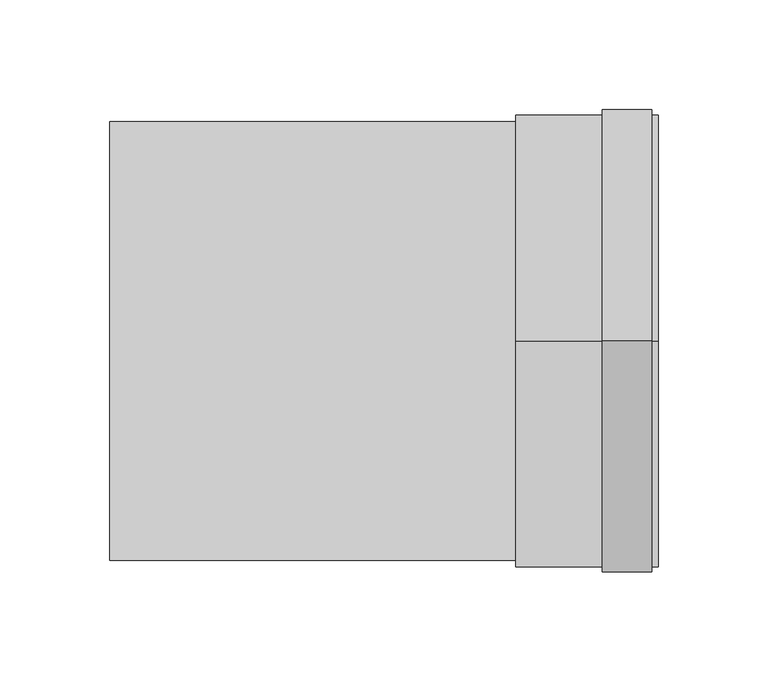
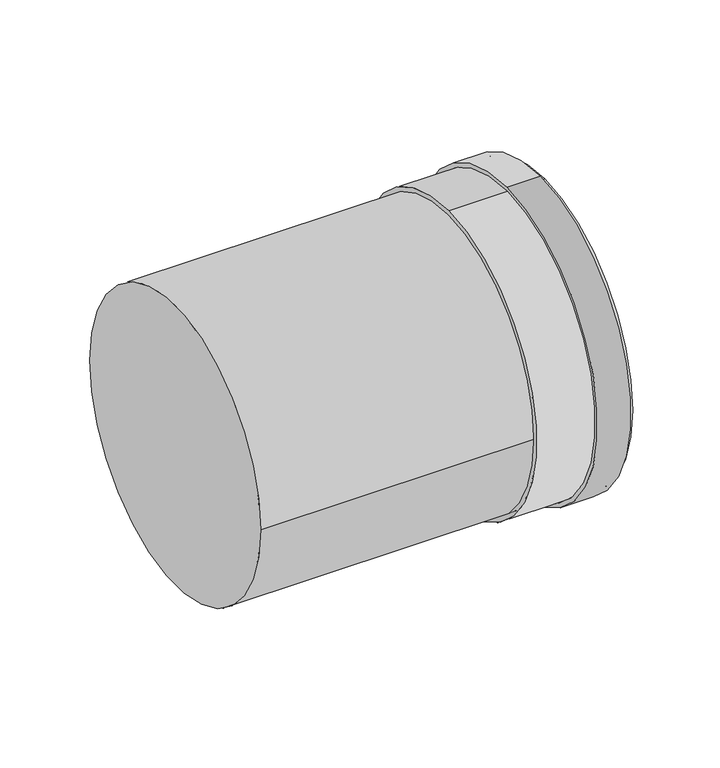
"""IFC4 building model written with IfcOpenShell, lengths in millimetres: duct fitting geometry, RSFen_DUF_UN_Twinline Extension_M&G : ø130-150-200."""

import ifcopenshell
import ifcopenshell.guid

model = None  # the IFC model being written
_history = None  # IfcOwnerHistory: only IFC2X3 demands one
_inside = {}  # id of a spatial element -> (the spatial element, [elements in it])
_under = {}  # id of a project, library or spatial element -> (it, [spatial elements below it])
_declared = {}  # id of a project -> (the project, [libraries it declares])
_typed = {}  # id of a type object -> (the type object, [elements of that type])
_made_of = {}  # id of a material, layer set ... -> (it, [elements and type objects made of it])


def new_model(schema):
    """Start an empty IFC model of exactly this schema.

    Asked for "IFC4X3", IfcOpenShell would pick the latest addendum, in which some entities
    have other attributes; the version numbers below select the first issue.
    IFC2X3 requires an IfcOwnerHistory on every rooted entity: one is made here for all.
    """
    global model, _history
    if schema == "IFC4X3":
        model = ifcopenshell.file(schema_version=(4, 3, 0, 0))
    else:
        model = ifcopenshell.file(schema=schema)
    _inside.clear()
    _under.clear()
    _declared.clear()
    _typed.clear()
    _made_of.clear()
    _history = None
    if model.schema == "IFC2X3":
        org = make("IfcOrganization", Name="unknown")
        user = make(
            "IfcPersonAndOrganization",
            ThePerson=make("IfcPerson", FamilyName="unknown"),
            TheOrganization=org,
        )
        app = make(
            "IfcApplication",
            ApplicationDeveloper=org,
            Version="unknown",
            ApplicationFullName="unknown",
            ApplicationIdentifier="unknown",
        )
        _history = make(
            "IfcOwnerHistory",
            OwningUser=user,
            OwningApplication=app,
            ChangeAction="ADDED",
            CreationDate=0,
        )
    return model


def make(cls, **values):
    """One entity of the class cls with the attributes given. An attribute that is None is left unset."""
    return model.create_entity(
        cls, **{name: value for name, value in values.items() if value is not None}
    )


def rooted(cls, **values):
    """An entity with a GlobalId (a new one), such as an element, a storey or a relation."""
    return make(cls, GlobalId=ifcopenshell.guid.new(), OwnerHistory=_history, **values)


def si_unit(unit_type, name, prefix=None):
    """IfcSIUnit, for example si_unit("LENGTHUNIT", "METRE", prefix="MILLI")."""
    return make("IfcSIUnit", UnitType=unit_type, Prefix=prefix, Name=name)


def assignment(units):
    """IfcUnitAssignment: the units of a project."""
    return None if units is None else make("IfcUnitAssignment", Units=units)


def point(xyz):
    """IfcCartesianPoint."""
    return None if xyz is None else make("IfcCartesianPoint", Coordinates=xyz)


def direction(xyz):
    """IfcDirection."""
    return None if xyz is None else make("IfcDirection", DirectionRatios=xyz)


def frame(location, z_axis=None, x_axis=None):
    """IfcAxis2Placement3D, a coordinate frame: its origin and axes. An axis left out is left unset."""
    return make(
        "IfcAxis2Placement3D",
        Location=point(location),
        Axis=direction(z_axis),
        RefDirection=direction(x_axis),
    )


def frame_2d(location, x_axis=None):
    """IfcAxis2Placement2D, a coordinate frame in the plane: its origin and x axis."""
    return make(
        "IfcAxis2Placement2D", Location=point(location), RefDirection=direction(x_axis)
    )


def origin():
    """The frame at (0, 0, 0) with its axes left unset."""
    return frame((0.0, 0.0, 0.0))


def origin_2d():
    """The frame at (0, 0) in the plane with its x axis left unset."""
    return frame_2d((0.0, 0.0))


def place(relative_to, where):
    """IfcLocalPlacement: puts the frame where relative to a parent placement (None: the world)."""
    return make(
        "IfcLocalPlacement", PlacementRelTo=relative_to, RelativePlacement=where
    )


def context(
    kind, dimensions, precision=None, world=None, true_north=None, identifier=None
):
    """IfcGeometricRepresentationContext, for example the 3D "Model" context."""
    return make(
        "IfcGeometricRepresentationContext",
        ContextIdentifier=identifier,
        ContextType=kind,
        CoordinateSpaceDimension=dimensions,
        Precision=precision,
        WorldCoordinateSystem=world,
        TrueNorth=true_north,
    )


def project(units=None, contexts=None):
    """IfcProject with its units and contexts."""
    return rooted(
        "IfcProject",
        Name="project",
        RepresentationContexts=contexts,
        UnitsInContext=assignment(units),
    )


def spatial(cls, under=None, at=None, **own):
    """A site, building, storey or space (cls), placed at a placement, below another one or the project."""
    s = rooted(cls, ObjectPlacement=at, **own)
    if under is not None:
        _under.setdefault(under.id(), (under, []))[1].append(s)
    return s


def polyline(points):
    """IfcPolyline through the points."""
    return make("IfcPolyline", Points=[point(p) for p in points])


def circle_curve(where, radius):
    """IfcCircle in the frame where."""
    return make("IfcCircle", Position=where, Radius=radius)


def trimmed(basis, trim1, trim2, sense, master):
    """IfcTrimmedCurve: the piece of a basis curve between two trims."""
    return make(
        "IfcTrimmedCurve",
        BasisCurve=basis,
        Trim1=trim1,
        Trim2=trim2,
        SenseAgreement=sense,
        MasterRepresentation=master,
    )


def segment(curve, same_sense, transition):
    """IfcCompositeCurveSegment."""
    return make(
        "IfcCompositeCurveSegment",
        Transition=transition,
        SameSense=same_sense,
        ParentCurve=curve,
    )


def composite_curve(segments, self_intersect=None):
    """IfcCompositeCurve: segments joined end to end."""
    return make("IfcCompositeCurve", Segments=segments, SelfIntersect=self_intersect)


def outline(outer, holes=None, kind="AREA"):
    """IfcArbitraryClosedProfileDef: a profile drawn as a closed curve; with holes, ...WithVoids."""
    if holes is None:
        return make("IfcArbitraryClosedProfileDef", ProfileType=kind, OuterCurve=outer)
    return make(
        "IfcArbitraryProfileDefWithVoids",
        ProfileType=kind,
        OuterCurve=outer,
        InnerCurves=holes,
    )


def extrude(swept, where, along, depth):
    """IfcExtrudedAreaSolid: the profile swept, set in the frame where, extruded along a direction by depth."""
    return make(
        "IfcExtrudedAreaSolid",
        SweptArea=swept,
        Position=where,
        ExtrudedDirection=direction(along),
        Depth=depth,
    )


def shape(context_of_items, identifier, shape_type, items):
    """IfcShapeRepresentation: the items that make up one representation, for example the "Body"."""
    return make(
        "IfcShapeRepresentation",
        ContextOfItems=context_of_items,
        RepresentationIdentifier=identifier,
        RepresentationType=shape_type,
        Items=items,
    )


def source(mapping_origin, context_of_items, identifier, shape_type, items):
    """IfcRepresentationMap: a shape defined once, which mapped items show again and again."""
    return make(
        "IfcRepresentationMap",
        MappingOrigin=mapping_origin,
        MappedRepresentation=shape(context_of_items, identifier, shape_type, items),
    )


def transform(
    local_origin,
    x_axis=None,
    y_axis=None,
    z_axis=None,
    scale=None,
    scale2=None,
    scale3=None,
    uniform=True,
):
    """IfcCartesianTransformationOperator3D, or its non-uniform kind. x_axis, y_axis, z_axis: its Axis1, 2, 3."""
    if uniform:
        return make(
            "IfcCartesianTransformationOperator3D",
            Axis1=direction(x_axis),
            Axis2=direction(y_axis),
            LocalOrigin=point(local_origin),
            Scale=scale,
            Axis3=direction(z_axis),
        )
    return make(
        "IfcCartesianTransformationOperator3DnonUniform",
        Axis1=direction(x_axis),
        Axis2=direction(y_axis),
        LocalOrigin=point(local_origin),
        Scale=scale,
        Axis3=direction(z_axis),
        Scale2=scale2,
        Scale3=scale3,
    )


def mapped(mapping_source, mapping_target):
    """IfcMappedItem: shows the shape of a source again, moved by a transform."""
    return make(
        "IfcMappedItem", MappingSource=mapping_source, MappingTarget=mapping_target
    )


def made_of(thing, what):
    """Note that an element or type object is made of a material, layer set ...; save() writes the relation."""
    if what is not None:
        _made_of.setdefault(what.id(), (what, []))[1].append(thing)
    return thing


def element(
    cls,
    number,
    at=None,
    inside=None,
    cuts=None,
    type_object=None,
    material=None,
    context=None,
    identifier="Body",
    shape_type=None,
    held_by="IfcProductDefinitionShape",
    body=None,
    shapes=None,
    **own,
):
    """One element of the class cls, such as IfcWall. Its Tag is "e" and its number.

    at: its placement. inside: the storey or other place that contains it. cuts: it is an
    opening in that element (IfcRelVoidsElement). A single representation is given by context,
    identifier, shape_type and body (its items); several are given by shapes. held_by: the class
    of the entity that holds the representations. save() writes the other relations.
    """
    e = rooted(cls, Tag="e%d" % number, ObjectPlacement=at, **own)
    if body is not None:
        shapes = [shape(context, identifier, shape_type, body)]
    if shapes is not None:
        e.Representation = make(held_by, Representations=shapes)
    if inside is not None:
        _inside.setdefault(inside.id(), (inside, []))[1].append(e)
    if cuts is not None:
        rooted(
            "IfcRelVoidsElement", RelatingBuildingElement=cuts, RelatedOpeningElement=e
        )
    if type_object is not None:
        _typed.setdefault(type_object.id(), (type_object, []))[1].append(e)
    return made_of(e, material)


def aggregate(whole, parts):
    """IfcRelAggregates: a whole, such as a stair, and the parts it consists of."""
    return rooted("IfcRelAggregates", RelatingObject=whole, RelatedObjects=parts)


def save(model, path):
    """Write the relations noted so far, then the file.

    IfcRelAggregates (storeys below a building ...), IfcRelContainedInSpatialStructure (elements
    in a storey), IfcRelDefinesByType, IfcRelAssociatesMaterial and IfcRelDeclares: one each for
    every whole, place, type object, material and project.
    """
    for whole, parts in _under.values():
        aggregate(whole, parts)
    for where, things in _inside.values():
        rooted(
            "IfcRelContainedInSpatialStructure",
            RelatedElements=things,
            RelatingStructure=where,
        )
    for kind, things in _typed.values():
        rooted("IfcRelDefinesByType", RelatedObjects=things, RelatingType=kind)
    for what, things in _made_of.values():
        rooted("IfcRelAssociatesMaterial", RelatedObjects=things, RelatingMaterial=what)
    for by, libraries in _declared.values():
        rooted("IfcRelDeclares", RelatingContext=by, RelatedDefinitions=libraries)
    model.write(path)


def plane_surface(at):
    """IfcPlane: the flat surface through the origin of the frame at, square to its z axis."""
    return make("IfcPlane", Position=at)


def cylinder_surface(at, radius):
    """IfcCylindricalSurface: all points at the distance radius from the z axis of the frame at."""
    return make("IfcCylindricalSurface", Position=at, Radius=radius)


def revolved_surface(curve, axis_point, axis_direction):
    """IfcSurfaceOfRevolution: the curve turned about the line through axis_point along axis_direction."""
    return make(
        "IfcSurfaceOfRevolution",
        SweptCurve=make("IfcArbitraryOpenProfileDef", ProfileType="CURVE", Curve=curve),
        AxisPosition=make("IfcAxis1Placement", Location=point(axis_point), Axis=direction(axis_direction)),
    )


def advanced_brep(points, edges, surfaces, faces):
    """IfcAdvancedBrep: a solid bounded by faces that lie on surfaces and meet in shared edges.

    An edge is (start, end): straight between two places in points (the first is 0);
    or (start, end, curve); or (start, end, curve, False) where it runs against its curve.
    A face is (place in surfaces, loops), or (place, loops, False) where it looks against
    its surface's normal. A loop lists edges by number (the first is 1), with a minus sign
    where the edge is run from its end to its start. The first loop is the outer one.
    """
    corners = [point(p) for p in points]
    vertices = [make("IfcVertexPoint", VertexGeometry=c) for c in corners]
    made = []
    for start, end, *more in edges:
        made.append(
            make(
                "IfcEdgeCurve",
                EdgeStart=vertices[start],
                EdgeEnd=vertices[end],
                EdgeGeometry=more[0] if more else make("IfcPolyline", Points=[corners[start], corners[end]]),
                SameSense=more[1] if len(more) > 1 else True,
            )
        )
    hull = []
    for where, loops, *sense in faces:
        bounds = []
        for j, loop in enumerate(loops):
            ring = [make("IfcOrientedEdge", EdgeElement=made[abs(k) - 1], Orientation=k > 0) for k in loop]
            bounds.append(
                make(
                    "IfcFaceOuterBound" if j == 0 else "IfcFaceBound",
                    Bound=make("IfcEdgeLoop", EdgeList=ring),
                    Orientation=True,
                )
            )
        hull.append(make("IfcAdvancedFace", Bounds=bounds, FaceSurface=surfaces[where], SameSense=sense[0] if sense else True))
    return make("IfcAdvancedBrep", Outer=make("IfcClosedShell", CfsFaces=hull))


def duct_fitting_7f7e895c(model_context):
    return source(origin(), model_context, "Body", "SolidModel", [
        extrude(outline(composite_curve([segment(trimmed(circle_curve(origin_2d(), 106.0), [point((0.0, 106.0))], [point((0.0, -106.0))], False, "CARTESIAN"), True, "CONTINUOUS"), segment(trimmed(circle_curve(origin_2d(), 106.0), [point((0.0, -106.0))], [point((0.0, 106.0))], False, "CARTESIAN"), True, "CONTINUOUS")], self_intersect=False), holes=[composite_curve([segment(trimmed(circle_curve(origin_2d(), 103.0), [point((0.0, -103.0))], [point((0.0, 103.0))], True, "CARTESIAN"), True, "CONTINUOUS"), segment(trimmed(circle_curve(origin_2d(), 103.0), [point((0.0, 103.0))], [point((0.0, -103.0))], True, "CARTESIAN"), True, "CONTINUOUS")], self_intersect=False)]), frame((224.5, 0.0, 0.0), z_axis=(1.0, 0.0, 0.0), x_axis=(0.0, 1.0, 0.0)), (0.0, 0.0, 1.0), 22.5),
        advanced_brep(
        [(250.0, 0.0, -103.0), (250.0, 0.0, 103.0), (250.0, 0.0, 99.0), (250.0, 0.0, -99.0), (185.0, 0.0, -103.0), (185.0, 0.0, 103.0), (190.0, 0.0, -99.0), (190.0, 0.0, 99.0)],
        [
            (0, 1, circle_curve(frame((250.0, 0.0, 0.0), z_axis=(1.0, 0.0, 0.0), x_axis=(0.0, 0.0, 1.0)), 103.0)),
            (1, 0, circle_curve(frame((250.0, 0.0, 0.0), z_axis=(1.0, 0.0, 0.0), x_axis=(0.0, 0.0, 1.0)), 103.0)),
            (2, 3, circle_curve(frame((250.0, 0.0, 0.0), z_axis=(-1.0, 0.0, 0.0), x_axis=(0.0, 0.0, 1.0)), 99.0)),
            (3, 2, circle_curve(frame((250.0, 0.0, 0.0), z_axis=(-1.0, 0.0, 0.0), x_axis=(0.0, 0.0, 1.0)), 99.0)),
            (4, 5, circle_curve(frame((185.0, 0.0, 0.0), z_axis=(-1.0, 0.0, 0.0), x_axis=(0.0, 0.0, 1.0)), 103.0)),
            (5, 4, circle_curve(frame((185.0, 0.0, 0.0), z_axis=(-1.0, 0.0, 0.0), x_axis=(0.0, 0.0, 1.0)), 103.0)),
            (0, 4),
            (5, 1),
            (6, 7, circle_curve(frame((190.0, 0.0, 0.0), z_axis=(1.0, 0.0, 0.0), x_axis=(0.0, 0.0, 1.0)), 99.0)),
            (7, 6, circle_curve(frame((190.0, 0.0, 0.0), z_axis=(1.0, 0.0, 0.0), x_axis=(0.0, 0.0, 1.0)), 99.0)),
            (6, 3),
            (2, 7),
        ],
        [
            plane_surface(frame((250.0, 0.0, 103.0), z_axis=(1.0, 0.0, 0.0), x_axis=(0.0, -1.0, 0.0))),
            plane_surface(frame((185.0, 0.0, 103.0), z_axis=(-1.0, 0.0, 0.0), x_axis=(0.0, 1.0, 0.0))),
            cylinder_surface(frame((185.0, 0.0, 0.0), z_axis=(1.0, 0.0, 0.0), x_axis=(0.0, 0.0, 1.0)), 103.0),
            plane_surface(frame((190.0, 0.0, 99.0), z_axis=(1.0, 0.0, 0.0), x_axis=(0.0, 1.0, 0.0))),
            revolved_surface(polyline([(250.0, 0.0, 99.0), (190.0, 0.0, 99.0)]), (190.0, 0.0, 0.0), (1.0, 0.0, 0.0)),
        ],
        [
            (0, [[1, 2], [3, 4]]),
            (1, [[5, 6]]),
            (2, [[-1, 7, -6, 8]]),
            (2, [[-2, -8, -5, -7]]),
            (3, [[9, 10]]),
            (4, [[-9, 11, -3, 12]]),
            (4, [[-10, -12, -4, -11]]),
        ],
    ),
        extrude(outline(composite_curve([segment(trimmed(circle_curve(origin_2d(), 100.0), [point((100.0, 0.0))], [point((-100.0, 0.0))], False, "CARTESIAN"), True, "CONTINUOUS"), segment(trimmed(circle_curve(origin_2d(), 100.0), [point((-100.0, 0.0))], [point((100.0, 0.0))], False, "CARTESIAN"), True, "CONTINUOUS")], self_intersect=False)), frame((-2.39e-05, 0.0, 0.0), z_axis=(1.0, 0.0, 0.0), x_axis=(0.0, 1.0, 0.0)), (0.0, 0.0, 1.0), 190.0),
    ])


if __name__ == "__main__":
    model = new_model("IFC4")
    model_context = context("Model", 3, world=origin())
    ifc_project = project(units=[si_unit("LENGTHUNIT", "METRE", prefix="MILLI")], contexts=[model_context])
    site = spatial("IfcSite", under=ifc_project)
    building = spatial("IfcBuilding", under=site)
    placement = place(None, origin())
    duct_fitting_shape = duct_fitting_7f7e895c(model_context)
    element("IfcDuctFitting", 1, ObjectType="RSFen_DUF_UN_Twinline Extension_M&G : ø130-150-200", at=placement, inside=building, context=model_context, shape_type="MappedRepresentation", body=[
        mapped(duct_fitting_shape, transform((0.0, 0.0, 0.0), x_axis=(1.0, 0.0, 0.0), y_axis=(0.0, 1.0, 0.0), z_axis=(0.0, 0.0, 1.0))),
    ])
    save(model, "model.ifc")
